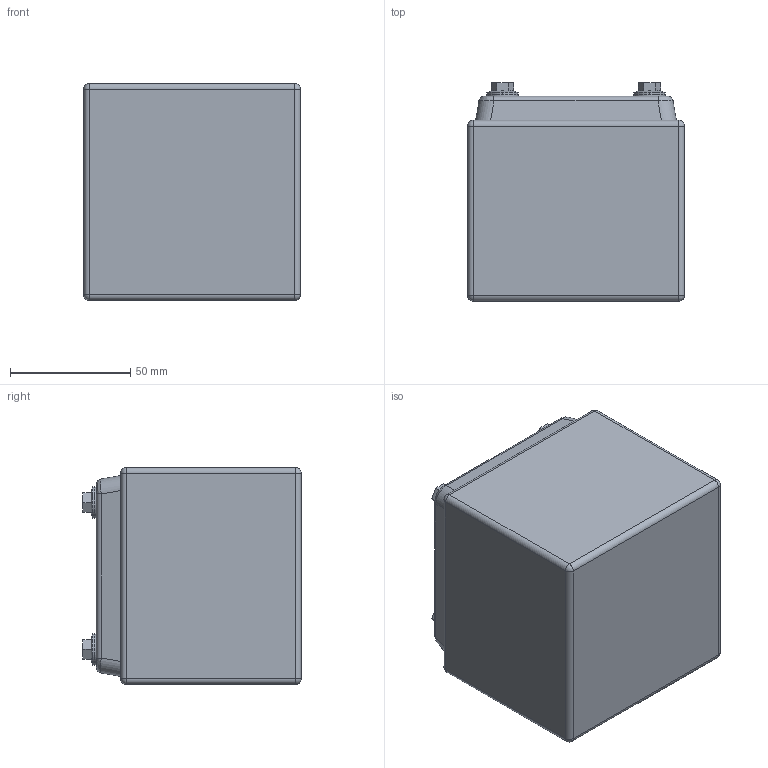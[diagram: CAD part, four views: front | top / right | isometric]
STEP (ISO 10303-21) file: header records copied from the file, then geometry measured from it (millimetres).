
FILE_DESCRIPTION (( 'STEP AP203' ), '1' );
FILE_NAME ('PE01-304A.STEP', '2021-02-23T14:35:38', ( '' ), ( '' ), 'SwSTEP 2.0', 'SolidWorks 2020', '' );
FILE_SCHEMA (( 'CONFIG_CONTROL_DESIGN' ));
Length unit declared in the file: millimetre
Products named in the file (1): PE01-304A
Bounding box: 90 x 90.6 x 90 mm (x, y, z)
Volume: 77019.6 mm3; surface area: 98037.1 mm2
Topology: 10 solids, 13 shells, 368 faces, 859 edges, 536 vertices
Faces by surface type: plane 197, cylinder 121, cone 18, sphere 16, bspline 16
Entity records: 11870 total; most frequent: CARTESIAN_POINT 3556, DIRECTION 1687, ORIENTED_EDGE 1686, EDGE_CURVE 843, AXIS2_PLACEMENT_3D 595, VERTEX_POINT 536, VECTOR 497, LINE 497
